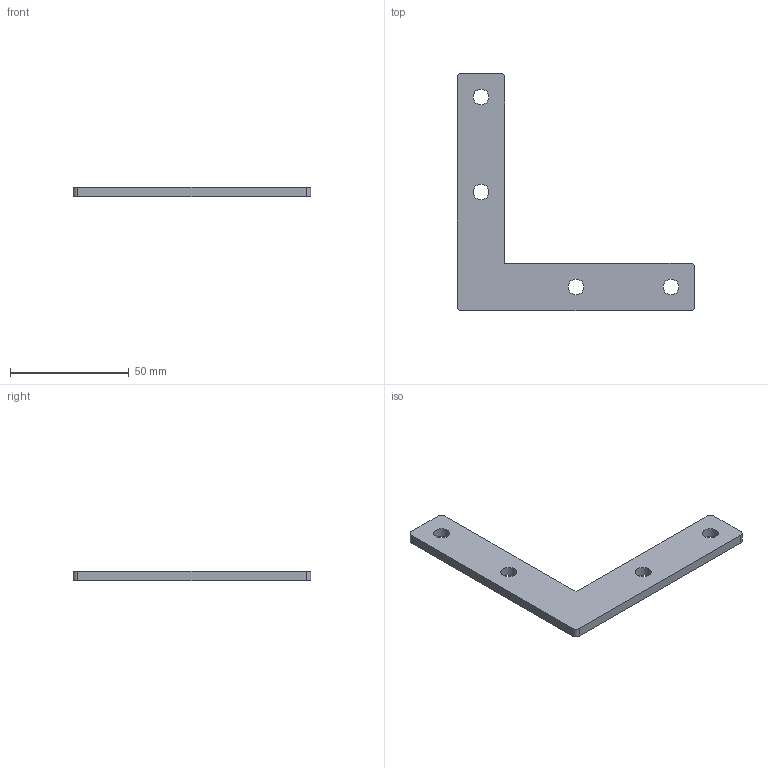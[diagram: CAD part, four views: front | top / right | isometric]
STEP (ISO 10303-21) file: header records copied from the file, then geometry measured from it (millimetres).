
FILE_DESCRIPTION((''),'2;1');
FILE_NAME('C:\Vault Klient\Projekt\Step\100-7020.stp','2009-12-10T13:13:29',('Mathias'),(''),'Autodesk Inventor 2010','Autodesk Inventor 2010','');
FILE_SCHEMA(('CONFIG_CONTROL_DESIGN'));
Length unit declared in the file: millimetre
Products named in the file (1): 100-7020
Bounding box: 100 x 100 x 4 mm (x, y, z)
Volume: 13827.7 mm3; surface area: 8830.7 mm2
Topology: 1 solids, 1 shells, 17 faces, 49 edges, 34 vertices
Faces by surface type: plane 8, cylinder 5, bspline 4
Entity records: 611 total; most frequent: CARTESIAN_POINT 157, DIRECTION 87, ORIENTED_EDGE 82, EDGE_CURVE 41, AXIS2_PLACEMENT_3D 32, VERTEX_POINT 30, EDGE_LOOP 29, VECTOR 23
